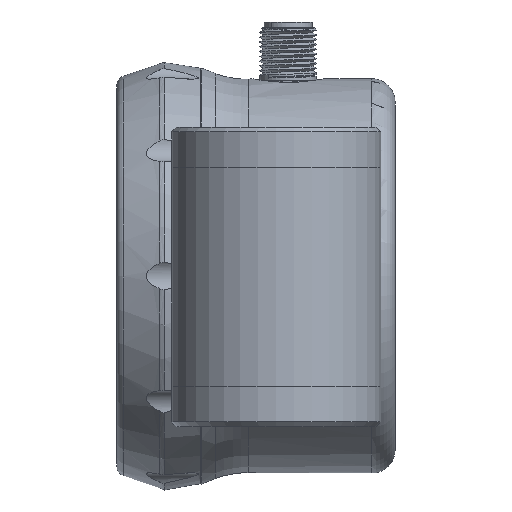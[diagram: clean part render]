
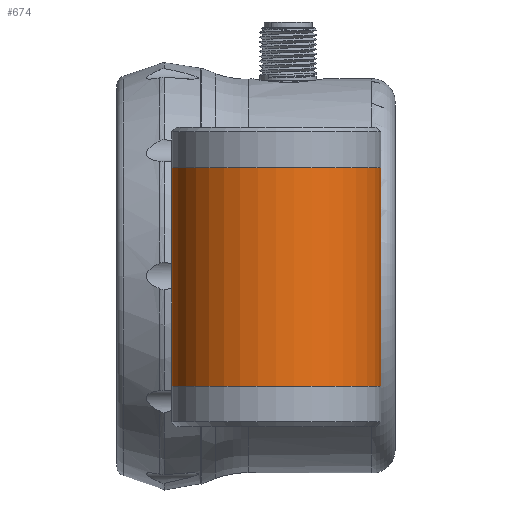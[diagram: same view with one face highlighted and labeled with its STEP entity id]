
A CAD part, front view. The second image highlights one B-rep face of the part: STEP entity #674.
In plain terms, the highlighted cylindrical face has radius 22 mm (diameter 44 mm), a full revolution.
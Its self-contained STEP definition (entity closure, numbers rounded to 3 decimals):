
#277=LINE('',#3718,#326);
#278=LINE('',#3723,#327);
#326=VECTOR('',#2982,1.);
#327=VECTOR('',#2985,1.);
#377=FACE_BOUND('',#1040,.T.);
#378=FACE_BOUND('',#1041,.T.);
#379=FACE_BOUND('',#1042,.T.);
#500=CIRCLE('',#2649,22.);
#501=CIRCLE('',#2651,22.);
#674=ADVANCED_FACE('',(#377,#378,#379),#844,.T.);
#844=CYLINDRICAL_SURFACE('',#2653,22.);
#1040=EDGE_LOOP('',(#1286,#1287,#1288,#1289));
#1041=EDGE_LOOP('',(#1290));
#1042=EDGE_LOOP('',(#1291));
#1286=ORIENTED_EDGE('',*,*,#2191,.F.);
#1287=ORIENTED_EDGE('',*,*,#2195,.F.);
#1288=ORIENTED_EDGE('',*,*,#2193,.F.);
#1289=ORIENTED_EDGE('',*,*,#2196,.F.);
#1290=ORIENTED_EDGE('',*,*,#2197,.F.);
#1291=ORIENTED_EDGE('',*,*,#2198,.T.);
#1948=VERTEX_POINT('',#3719);
#1949=VERTEX_POINT('',#3720);
#1950=VERTEX_POINT('',#3722);
#1951=VERTEX_POINT('',#3724);
#1952=VERTEX_POINT('',#3750);
#1953=VERTEX_POINT('',#3753);
#2191=EDGE_CURVE('',#1948,#1949,#277,.T.);
#2193=EDGE_CURVE('',#1950,#1951,#278,.T.);
#2195=EDGE_CURVE('',#1951,#1948,#2526,.T.);
#2196=EDGE_CURVE('',#1949,#1950,#2527,.T.);
#2197=EDGE_CURVE('',#1952,#1952,#500,.T.);
#2198=EDGE_CURVE('',#1953,#1953,#501,.T.);
#2526=B_SPLINE_CURVE_WITH_KNOTS('',3,(#3727,#3728,#3729,#3730,#3731,#3732,
#3733,#3734,#3735,#3736),.UNSPECIFIED.,.F.,.F.,(4,2,2,2,4),(0.,0.25,0.5,
0.75,1.),.UNSPECIFIED.);
#2527=B_SPLINE_CURVE_WITH_KNOTS('',3,(#3738,#3739,#3740,#3741,#3742,#3743,
#3744,#3745,#3746,#3747),.UNSPECIFIED.,.F.,.F.,(4,2,2,2,4),(0.,0.25,0.5,
0.75,1.),.UNSPECIFIED.);
#2649=AXIS2_PLACEMENT_3D('',#3749,#2994,#2995);
#2651=AXIS2_PLACEMENT_3D('',#3752,#2998,#2999);
#2653=AXIS2_PLACEMENT_3D('',#3755,#3002,#3003);
#2982=DIRECTION('',(0.,0.,-1.));
#2985=DIRECTION('',(0.,0.,1.));
#2994=DIRECTION('',(0.,0.,1.));
#2995=DIRECTION('',(1.,0.,0.));
#2998=DIRECTION('',(0.,0.,1.));
#2999=DIRECTION('',(1.,0.,0.));
#3002=DIRECTION('',(0.,0.,-1.));
#3003=DIRECTION('',(1.,0.,0.));
#3718=CARTESIAN_POINT('',(62.165,26.5,17.));
#3719=CARTESIAN_POINT('',(62.165,26.5,9.96));
#3720=CARTESIAN_POINT('',(62.165,26.5,-9.96));
#3722=CARTESIAN_POINT('',(43.835,26.5,-9.96));
#3723=CARTESIAN_POINT('',(43.835,26.5,17.));
#3724=CARTESIAN_POINT('',(43.835,26.5,9.96));
#3727=CARTESIAN_POINT('',(43.835,26.5,9.96));
#3728=CARTESIAN_POINT('',(44.833,26.958,11.501));
#3729=CARTESIAN_POINT('',(46.103,27.453,12.873));
#3730=CARTESIAN_POINT('',(49.236,28.236,14.912));
#3731=CARTESIAN_POINT('',(51.081,28.5,15.535));
#3732=CARTESIAN_POINT('',(54.915,28.5,15.536));
#3733=CARTESIAN_POINT('',(56.764,28.236,14.913));
#3734=CARTESIAN_POINT('',(59.899,27.453,12.871));
#3735=CARTESIAN_POINT('',(61.166,26.958,11.502));
#3736=CARTESIAN_POINT('',(62.165,26.5,9.96));
#3738=CARTESIAN_POINT('',(62.165,26.5,-9.96));
#3739=CARTESIAN_POINT('',(61.167,26.958,-11.501));
#3740=CARTESIAN_POINT('',(59.897,27.453,-12.873));
#3741=CARTESIAN_POINT('',(56.764,28.236,-14.912));
#3742=CARTESIAN_POINT('',(54.919,28.5,-15.535));
#3743=CARTESIAN_POINT('',(51.085,28.5,-15.536));
#3744=CARTESIAN_POINT('',(49.236,28.236,-14.913));
#3745=CARTESIAN_POINT('',(46.101,27.453,-12.871));
#3746=CARTESIAN_POINT('',(44.834,26.958,-11.502));
#3747=CARTESIAN_POINT('',(43.835,26.5,-9.96));
#3749=CARTESIAN_POINT('',(53.,6.5,23.));
#3750=CARTESIAN_POINT('',(75.,6.5,23.));
#3752=CARTESIAN_POINT('',(53.,6.5,-23.));
#3753=CARTESIAN_POINT('',(75.,6.5,-23.));
#3755=CARTESIAN_POINT('',(53.,6.5,17.));
